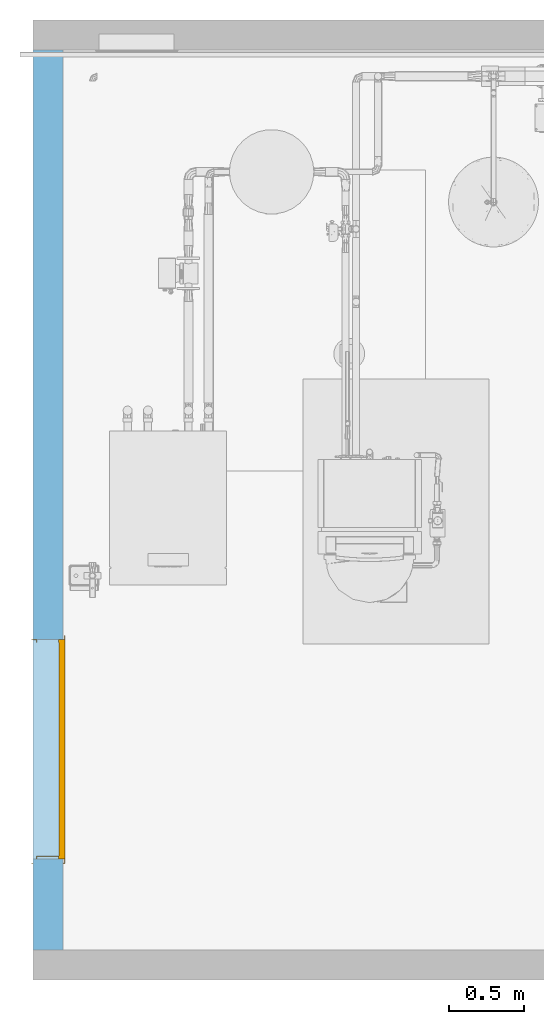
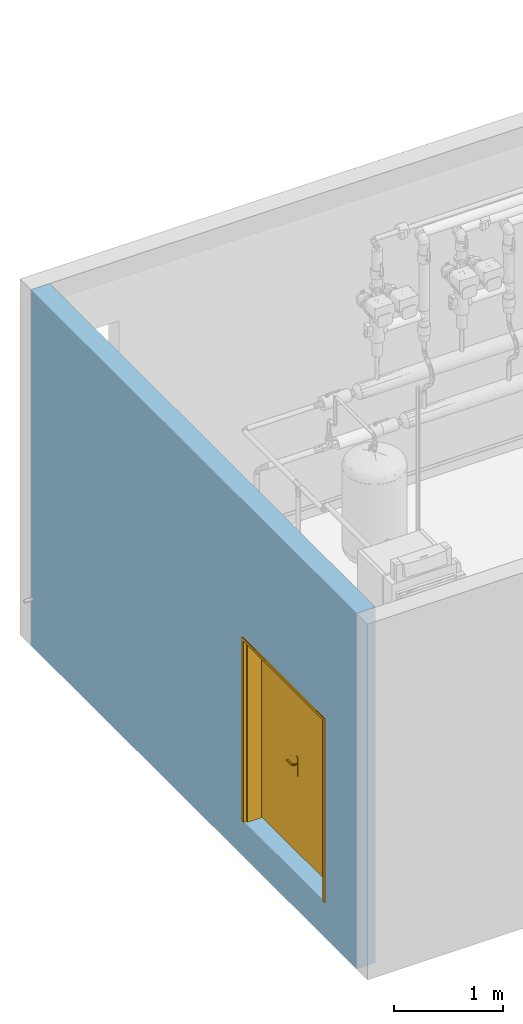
# One storey, part 2 of 94: 1 door, 1 opening, plus 1 element that does not belong to this part.
"""IFC2X3 building model written with IfcOpenShell, lengths in millimetres."""

import ifcopenshell
import ifcopenshell.guid

model = None  # the IFC model being written
_history = None  # IfcOwnerHistory: only IFC2X3 demands one
_inside = {}  # id of a spatial element -> (the spatial element, [elements in it])
_under = {}  # id of a project, library or spatial element -> (it, [spatial elements below it])
_declared = {}  # id of a project -> (the project, [libraries it declares])
_typed = {}  # id of a type object -> (the type object, [elements of that type])
_made_of = {}  # id of a material, layer set ... -> (it, [elements and type objects made of it])


def new_model(schema):
    """Start an empty IFC model of exactly this schema.

    Asked for "IFC4X3", IfcOpenShell would pick the latest addendum, in which some entities
    have other attributes; the version numbers below select the first issue.
    IFC2X3 requires an IfcOwnerHistory on every rooted entity: one is made here for all.
    """
    global model, _history
    if schema == "IFC4X3":
        model = ifcopenshell.file(schema_version=(4, 3, 0, 0))
    else:
        model = ifcopenshell.file(schema=schema)
    _inside.clear()
    _under.clear()
    _declared.clear()
    _typed.clear()
    _made_of.clear()
    _history = None
    if model.schema == "IFC2X3":
        org = make("IfcOrganization", Name="unknown")
        user = make(
            "IfcPersonAndOrganization",
            ThePerson=make("IfcPerson", FamilyName="unknown"),
            TheOrganization=org,
        )
        app = make(
            "IfcApplication",
            ApplicationDeveloper=org,
            Version="unknown",
            ApplicationFullName="unknown",
            ApplicationIdentifier="unknown",
        )
        _history = make(
            "IfcOwnerHistory",
            OwningUser=user,
            OwningApplication=app,
            ChangeAction="ADDED",
            CreationDate=0,
        )
    return model


def make(cls, **values):
    """One entity of the class cls with the attributes given. An attribute that is None is left unset."""
    return model.create_entity(
        cls, **{name: value for name, value in values.items() if value is not None}
    )


def entity(cls, *values):
    """Any entity or typed value of the class cls, its attributes in the order of the schema. None: left unset."""
    e = model.create_entity(cls)
    for i, value in enumerate(values):
        if value is not None:
            e[i] = value
    return e


def rooted(cls, **values):
    """An entity with a GlobalId (a new one), such as an element, a storey or a relation."""
    return make(cls, GlobalId=ifcopenshell.guid.new(), OwnerHistory=_history, **values)


def si_unit(unit_type, name, prefix=None):
    """IfcSIUnit, for example si_unit("LENGTHUNIT", "METRE", prefix="MILLI")."""
    return make("IfcSIUnit", UnitType=unit_type, Prefix=prefix, Name=name)


def converted_unit(unit_type, name, factor, base, dimensions=None, offset=None):
    """IfcConversionBasedUnit, such as the inch: factor (a typed value) times the base unit."""
    return make(
        "IfcConversionBasedUnit"
        if offset is None
        else "IfcConversionBasedUnitWithOffset",
        ConversionOffset=offset,
        Dimensions=None
        if dimensions is None
        else entity("IfcDimensionalExponents", *dimensions),
        UnitType=unit_type,
        Name=name,
        ConversionFactor=make(
            "IfcMeasureWithUnit", ValueComponent=factor, UnitComponent=base
        ),
    )


def derived_unit(unit_type, elements):
    """IfcDerivedUnit: a product of units, each with its exponent."""
    return make(
        "IfcDerivedUnit",
        Elements=[
            make("IfcDerivedUnitElement", Unit=unit, Exponent=power)
            for unit, power in elements
        ],
        UnitType=unit_type,
    )


def assignment(units):
    """IfcUnitAssignment: the units of a project."""
    return None if units is None else make("IfcUnitAssignment", Units=units)


def point(xyz):
    """IfcCartesianPoint."""
    return None if xyz is None else make("IfcCartesianPoint", Coordinates=xyz)


def direction(xyz):
    """IfcDirection."""
    return None if xyz is None else make("IfcDirection", DirectionRatios=xyz)


def frame(location, z_axis=None, x_axis=None):
    """IfcAxis2Placement3D, a coordinate frame: its origin and axes. An axis left out is left unset."""
    return make(
        "IfcAxis2Placement3D",
        Location=point(location),
        Axis=direction(z_axis),
        RefDirection=direction(x_axis),
    )


def frame_2d(location, x_axis=None):
    """IfcAxis2Placement2D, a coordinate frame in the plane: its origin and x axis."""
    return make(
        "IfcAxis2Placement2D", Location=point(location), RefDirection=direction(x_axis)
    )


def origin():
    """The frame at (0, 0, 0) with its axes left unset."""
    return frame((0.0, 0.0, 0.0))


def place(relative_to, where):
    """IfcLocalPlacement: puts the frame where relative to a parent placement (None: the world)."""
    return make(
        "IfcLocalPlacement", PlacementRelTo=relative_to, RelativePlacement=where
    )


def context(
    kind, dimensions, precision=None, world=None, true_north=None, identifier=None
):
    """IfcGeometricRepresentationContext, for example the 3D "Model" context."""
    return make(
        "IfcGeometricRepresentationContext",
        ContextIdentifier=identifier,
        ContextType=kind,
        CoordinateSpaceDimension=dimensions,
        Precision=precision,
        WorldCoordinateSystem=world,
        TrueNorth=true_north,
    )


def subcontext(parent, identifier, kind, view, scale=None):
    """IfcGeometricRepresentationSubContext, for example "Body" below "Model"."""
    return make(
        "IfcGeometricRepresentationSubContext",
        ContextIdentifier=identifier,
        ContextType=kind,
        ParentContext=parent,
        TargetScale=scale,
        TargetView=view,
    )


def project(units=None, contexts=None):
    """IfcProject with its units and contexts."""
    return rooted(
        "IfcProject",
        Name="project",
        RepresentationContexts=contexts,
        UnitsInContext=assignment(units),
    )


def spatial(cls, under=None, at=None, **own):
    """A site, building, storey or space (cls), placed at a placement, below another one or the project."""
    s = rooted(cls, ObjectPlacement=at, **own)
    if under is not None:
        _under.setdefault(under.id(), (under, []))[1].append(s)
    return s


def profile(cls, at=None, kind="AREA", **sizes):
    """A parametric profile (cls). Its sizes go by their IFC names, for example OverallWidth=200.0."""
    return make(cls, ProfileType=kind, Position=at, **sizes)


def rectangle(**sizes):
    """IfcRectangleProfileDef."""
    return profile("IfcRectangleProfileDef", **sizes)


def extrude(swept, where, along, depth):
    """IfcExtrudedAreaSolid: the profile swept, set in the frame where, extruded along a direction by depth."""
    return make(
        "IfcExtrudedAreaSolid",
        SweptArea=swept,
        Position=where,
        ExtrudedDirection=direction(along),
        Depth=depth,
    )


def faces_of(points, faces, orient=None, outer=None):
    """IfcFace entities. A face is a list of loops; a loop is a list of indices into points, from 0.

    orient and outer hold one flag for each loop. By default every Orientation is true, the
    first loop of a face is its IfcFaceOuterBound and the others are IfcFaceBound.
    """
    made = []
    for i, loops in enumerate(faces):
        bounds = []
        for j, loop in enumerate(loops):
            is_outer = j == 0 if outer is None else outer[i][j]
            bounds.append(
                make(
                    "IfcFaceOuterBound" if is_outer else "IfcFaceBound",
                    Bound=make("IfcPolyLoop", Polygon=[points[k] for k in loop]),
                    Orientation=True if orient is None else orient[i][j],
                )
            )
        made.append(make("IfcFace", Bounds=bounds))
    return made


def faceted_brep(points, faces, orient=None, outer=None, voids=None):
    """IfcFacetedBrep: a solid bounded by flat faces; with voids (closed shells), ...WithVoids."""
    shared = [point(p) for p in points]
    hull = make("IfcClosedShell", CfsFaces=faces_of(shared, faces, orient, outer))
    if voids is None:
        return make("IfcFacetedBrep", Outer=hull)
    return make(
        "IfcFacetedBrepWithVoids",
        Outer=hull,
        Voids=[
            make(cls, CfsFaces=faces_of(shared, fs, o, b)) for cls, fs, o, b in voids
        ],
    )


def shape(context_of_items, identifier, shape_type, items):
    """IfcShapeRepresentation: the items that make up one representation, for example the "Body"."""
    return make(
        "IfcShapeRepresentation",
        ContextOfItems=context_of_items,
        RepresentationIdentifier=identifier,
        RepresentationType=shape_type,
        Items=items,
    )


def source(mapping_origin, context_of_items, identifier, shape_type, items):
    """IfcRepresentationMap: a shape defined once, which mapped items show again and again."""
    return make(
        "IfcRepresentationMap",
        MappingOrigin=mapping_origin,
        MappedRepresentation=shape(context_of_items, identifier, shape_type, items),
    )


def transform(
    local_origin,
    x_axis=None,
    y_axis=None,
    z_axis=None,
    scale=None,
    scale2=None,
    scale3=None,
    uniform=True,
):
    """IfcCartesianTransformationOperator3D, or its non-uniform kind. x_axis, y_axis, z_axis: its Axis1, 2, 3."""
    if uniform:
        return make(
            "IfcCartesianTransformationOperator3D",
            Axis1=direction(x_axis),
            Axis2=direction(y_axis),
            LocalOrigin=point(local_origin),
            Scale=scale,
            Axis3=direction(z_axis),
        )
    return make(
        "IfcCartesianTransformationOperator3DnonUniform",
        Axis1=direction(x_axis),
        Axis2=direction(y_axis),
        LocalOrigin=point(local_origin),
        Scale=scale,
        Axis3=direction(z_axis),
        Scale2=scale2,
        Scale3=scale3,
    )


def mapped(mapping_source, mapping_target):
    """IfcMappedItem: shows the shape of a source again, moved by a transform."""
    return make(
        "IfcMappedItem", MappingSource=mapping_source, MappingTarget=mapping_target
    )


def material(Name=None, Category=None):
    """IfcMaterial."""
    return make("IfcMaterial", Name=Name, Category=Category)


def material_list(materials):
    """IfcMaterialList."""
    return make("IfcMaterialList", Materials=materials)


def layer(
    of_material, thickness, ventilated=None, Name=None, Category=None, Priority=None
):
    """IfcMaterialLayer: one layer of a wall or slab, of a material (None: an air gap)."""
    return make(
        "IfcMaterialLayer",
        Material=of_material,
        LayerThickness=thickness,
        IsVentilated=ventilated,
        Name=Name,
        Category=Category,
        Priority=Priority,
    )


def layer_set(layers, Name=None):
    """IfcMaterialLayerSet."""
    return make("IfcMaterialLayerSet", MaterialLayers=layers, LayerSetName=Name)


def layer_usage(for_layer_set, set_direction, sense, offset, extent=None):
    """IfcMaterialLayerSetUsage: how a layer set lies in its element."""
    return make(
        "IfcMaterialLayerSetUsage",
        ForLayerSet=for_layer_set,
        LayerSetDirection=set_direction,
        DirectionSense=sense,
        OffsetFromReferenceLine=offset,
        ReferenceExtent=extent,
    )


def made_of(thing, what):
    """Note that an element or type object is made of a material, layer set ...; save() writes the relation."""
    if what is not None:
        _made_of.setdefault(what.id(), (what, []))[1].append(thing)
    return thing


def type_object(cls, material=None, **own):
    """A type object (cls), such as IfcWallType, which elements share."""
    return made_of(rooted(cls, **own), material)


def type_shapes(of_type, sources):
    """Give a type object the sources (RepresentationMaps) that its elements show as mapped items."""
    of_type.RepresentationMaps = sources


def element(
    cls,
    number,
    at=None,
    inside=None,
    cuts=None,
    type_object=None,
    material=None,
    context=None,
    identifier="Body",
    shape_type=None,
    held_by="IfcProductDefinitionShape",
    body=None,
    shapes=None,
    **own,
):
    """One element of the class cls, such as IfcWall. Its Tag is "e" and its number.

    at: its placement. inside: the storey or other place that contains it. cuts: it is an
    opening in that element (IfcRelVoidsElement). A single representation is given by context,
    identifier, shape_type and body (its items); several are given by shapes. held_by: the class
    of the entity that holds the representations. save() writes the other relations.
    """
    e = rooted(cls, Tag="e%d" % number, ObjectPlacement=at, **own)
    if body is not None:
        shapes = [shape(context, identifier, shape_type, body)]
    if shapes is not None:
        e.Representation = make(held_by, Representations=shapes)
    if inside is not None:
        _inside.setdefault(inside.id(), (inside, []))[1].append(e)
    if cuts is not None:
        rooted(
            "IfcRelVoidsElement", RelatingBuildingElement=cuts, RelatedOpeningElement=e
        )
    if type_object is not None:
        _typed.setdefault(type_object.id(), (type_object, []))[1].append(e)
    return made_of(e, material)


def fill(opening, filler):
    """IfcRelFillsElement: the door or window that sits in an opening."""
    return rooted(
        "IfcRelFillsElement",
        RelatingOpeningElement=opening,
        RelatedBuildingElement=filler,
    )


def aggregate(whole, parts):
    """IfcRelAggregates: a whole, such as a stair, and the parts it consists of."""
    return rooted("IfcRelAggregates", RelatingObject=whole, RelatedObjects=parts)


def save(model, path):
    """Write the relations noted so far, then the file.

    IfcRelAggregates (storeys below a building ...), IfcRelContainedInSpatialStructure (elements
    in a storey), IfcRelDefinesByType, IfcRelAssociatesMaterial and IfcRelDeclares: one each for
    every whole, place, type object, material and project.
    """
    for whole, parts in _under.values():
        aggregate(whole, parts)
    for where, things in _inside.values():
        rooted(
            "IfcRelContainedInSpatialStructure",
            RelatedElements=things,
            RelatingStructure=where,
        )
    for kind, things in _typed.values():
        rooted("IfcRelDefinesByType", RelatedObjects=things, RelatingType=kind)
    for what, things in _made_of.values():
        rooted("IfcRelAssociatesMaterial", RelatedObjects=things, RelatingMaterial=what)
    for by, libraries in _declared.values():
        rooted("IfcRelDeclares", RelatingContext=by, RelatedDefinitions=libraries)
    model.write(path)


model = new_model("IFC2X3")

# Units and contexts
model_context = context("Model", 3, precision=0.01, world=origin(), true_north=direction((6.123031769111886e-17, 1.0)))
body_context = subcontext(model_context, "Body", "Model", "MODEL_VIEW")
ifc_project = project(units=[si_unit("LENGTHUNIT", "METRE", prefix="MILLI"), si_unit("AREAUNIT", "SQUARE_METRE"), si_unit("VOLUMEUNIT", "CUBIC_METRE"), converted_unit("PLANEANGLEUNIT", "DEGREE", entity("IfcRatioMeasure", 0.017453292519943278), si_unit("PLANEANGLEUNIT", "RADIAN"), dimensions=[0, 0, 0, 0, 0, 0, 0]), si_unit("MASSUNIT", "GRAM", prefix="KILO"), derived_unit("MASSDENSITYUNIT", [(si_unit("MASSUNIT", "GRAM", prefix="KILO"), 1), (si_unit("LENGTHUNIT", "METRE"), -3)]), derived_unit("IONCONCENTRATIONUNIT", [(si_unit("MASSUNIT", "GRAM", prefix="KILO"), 1), (si_unit("LENGTHUNIT", "METRE"), -3)]), derived_unit("MOMENTOFINERTIAUNIT", [(si_unit("LENGTHUNIT", "METRE"), 4)]), si_unit("TIMEUNIT", "SECOND"), si_unit("FREQUENCYUNIT", "HERTZ"), si_unit("THERMODYNAMICTEMPERATUREUNIT", "DEGREE_CELSIUS"), derived_unit("THERMALTRANSMITTANCEUNIT", [(si_unit("MASSUNIT", "GRAM", prefix="KILO"), 1), (si_unit("THERMODYNAMICTEMPERATUREUNIT", "KELVIN"), -1), (si_unit("TIMEUNIT", "SECOND"), -3)]), derived_unit("THERMALCONDUCTANCEUNIT", [(si_unit("MASSUNIT", "GRAM", prefix="KILO"), 1), (si_unit("THERMODYNAMICTEMPERATUREUNIT", "KELVIN"), -1), (si_unit("TIMEUNIT", "SECOND"), -3), (si_unit("LENGTHUNIT", "METRE"), 1)]), derived_unit("VOLUMETRICFLOWRATEUNIT", [(si_unit("LENGTHUNIT", "METRE"), 3), (si_unit("TIMEUNIT", "SECOND"), -1)]), derived_unit("MASSFLOWRATEUNIT", [(si_unit("MASSUNIT", "GRAM", prefix="KILO"), 1), (si_unit("TIMEUNIT", "SECOND"), -1)]), derived_unit("ROTATIONALFREQUENCYUNIT", [(si_unit("TIMEUNIT", "SECOND"), -1)]), si_unit("ELECTRICCURRENTUNIT", "AMPERE"), si_unit("ELECTRICVOLTAGEUNIT", "VOLT"), si_unit("POWERUNIT", "WATT"), si_unit("FORCEUNIT", "NEWTON", prefix="KILO"), si_unit("ILLUMINANCEUNIT", "LUX"), si_unit("LUMINOUSFLUXUNIT", "LUMEN"), si_unit("LUMINOUSINTENSITYUNIT", "CANDELA"), derived_unit("USERDEFINED", [(si_unit("MASSUNIT", "GRAM", prefix="KILO"), -1), (si_unit("LENGTHUNIT", "METRE"), -2), (si_unit("TIMEUNIT", "SECOND"), 3), (si_unit("LUMINOUSFLUXUNIT", "LUMEN"), 1)]), derived_unit("USERDEFINED", [(si_unit("MASSUNIT", "GRAM", prefix="KILO"), 1), (si_unit("TIMEUNIT", "SECOND"), -3), (si_unit("LENGTHUNIT", "METRE"), 3), (si_unit("ELECTRICCURRENTUNIT", "AMPERE"), -2)]), derived_unit("SOUNDPOWERUNIT", [(si_unit("MASSUNIT", "GRAM", prefix="KILO"), 1), (si_unit("TIMEUNIT", "SECOND"), -3), (si_unit("LENGTHUNIT", "METRE"), 2)]), derived_unit("SOUNDPRESSUREUNIT", [(si_unit("MASSUNIT", "GRAM", prefix="KILO"), 1), (si_unit("LENGTHUNIT", "METRE"), -1), (si_unit("TIMEUNIT", "SECOND"), -2)]), derived_unit("LINEARVELOCITYUNIT", [(si_unit("LENGTHUNIT", "METRE"), 1), (si_unit("TIMEUNIT", "SECOND"), -1)]), si_unit("PRESSUREUNIT", "PASCAL"), derived_unit("USERDEFINED", [(si_unit("MASSUNIT", "GRAM", prefix="KILO"), 1), (si_unit("LENGTHUNIT", "METRE"), -2), (si_unit("TIMEUNIT", "SECOND"), -2)]), derived_unit("LINEARFORCEUNIT", [(si_unit("MASSUNIT", "GRAM", prefix="KILO"), 1), (si_unit("TIMEUNIT", "SECOND"), -2)]), derived_unit("PLANARFORCEUNIT", [(si_unit("MASSUNIT", "GRAM", prefix="KILO"), 1), (si_unit("LENGTHUNIT", "METRE"), -1), (si_unit("TIMEUNIT", "SECOND"), -2)]), derived_unit("SPECIFICHEATCAPACITYUNIT", [(si_unit("THERMODYNAMICTEMPERATUREUNIT", "KELVIN"), -1), (si_unit("LENGTHUNIT", "METRE"), 2), (si_unit("TIMEUNIT", "SECOND"), -2)]), derived_unit("HEATINGVALUEUNIT", [(si_unit("LENGTHUNIT", "METRE"), 2), (si_unit("TIMEUNIT", "SECOND"), -2)]), derived_unit("VAPORPERMEABILITYUNIT", [(si_unit("LENGTHUNIT", "METRE"), -1), (si_unit("TIMEUNIT", "SECOND"), 1)]), derived_unit("DYNAMICVISCOSITYUNIT", [(si_unit("MASSUNIT", "GRAM", prefix="KILO"), 1), (si_unit("TIMEUNIT", "SECOND"), -1), (si_unit("LENGTHUNIT", "METRE"), -1)]), derived_unit("THERMALEXPANSIONCOEFFICIENTUNIT", [(si_unit("THERMODYNAMICTEMPERATUREUNIT", "KELVIN"), -1)]), derived_unit("MODULUSOFELASTICITYUNIT", [(si_unit("MASSUNIT", "GRAM", prefix="KILO"), 1), (si_unit("LENGTHUNIT", "METRE"), -1), (si_unit("TIMEUNIT", "SECOND"), -2)]), derived_unit("ISOTHERMALMOISTURECAPACITYUNIT", [(si_unit("LENGTHUNIT", "METRE"), 3), (si_unit("MASSUNIT", "GRAM", prefix="KILO"), -1)]), derived_unit("MOISTUREDIFFUSIVITYUNIT", [(si_unit("TIMEUNIT", "SECOND"), -1), (si_unit("LENGTHUNIT", "METRE"), 2)])], contexts=[model_context])

# Site, building, storey
site_placement = place(None, origin())
site = spatial("IfcSite", under=ifc_project, at=site_placement, Name="Default", CompositionType="ELEMENT")
building_placement = place(site_placement, origin())
building = spatial("IfcBuilding", under=site, at=building_placement, CompositionType="ELEMENT")
storey_placement = place(building_placement, origin())
storey = spatial("IfcBuildingStorey", under=building, at=storey_placement, Name="Niveau 0", CompositionType="ELEMENT", Elevation=0.0)

# Wall, opening, door
ifc_material_1 = material(Name="Mur par défaut")
ifc_layer = layer(ifc_material_1, 200.0)
ifc_layer_set = layer_set([ifc_layer], Name="Mur de base:Générique - 200 mm")
ifc_layer_usage = layer_usage(ifc_layer_set, "AXIS2", "NEGATIVE", 100.0)
wall_type = type_object("IfcWallType", Name="Mur de base:Générique - 200 mm", PredefinedType="STANDARD", material=ifc_layer_set)
wall_placement = place(storey_placement, frame((-13852.538466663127, 4097.470546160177, -400.0), z_axis=(0.0, 0.0, 1.0), x_axis=(0.0, 1.0, 0.0)))
wall = element("IfcWallStandardCase", 1, at=wall_placement, inside=storey, type_object=wall_type, material=ifc_layer_usage, Name="Mur de base:Générique - 200 mm", ObjectType="Mur de base:Générique - 200 mm", context=body_context, shape_type="SweptSolid", body=[
    extrude(rectangle(XDim=5999.999999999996, YDim=200.0, at=frame_2d((2999.9999999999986, -1.0871303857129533e-12), x_axis=(-1.0, 0.0))), origin(), (0.0, 0.0, 1.0), 4000.0000000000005),
])
opening_placement = place(wall_placement, frame((2068.9655018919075, 100.0, 400.0)))
opening = element("IfcOpeningElement", 2, at=opening_placement, cuts=wall, Name="HM-Double:1460 x 2040 mm:1", ObjectType="Opening", context=body_context, shape_type="SweptSolid", body=[
    extrude(rectangle(XDim=2041.5000000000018, YDim=1463.0000000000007, at=frame_2d((1020.7500000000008, 731.5000000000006), x_axis=(1.0, 0.0))), frame((0.0, 0.0, 0.0), z_axis=(0.0, -1.0, 0.0), x_axis=(0.0, 0.0, 1.0)), (0.0, 0.0, 1.0), 200.0),
])
ifc_material_2 = material(Name="RAL1013-Blanc perle")
ifc_material_3 = material(Name="RAL1002-Jaune sable")
ifc_material_list = material_list([ifc_material_2, ifc_material_3])
door_style = type_object("IfcDoorStyle", Name="HM-Double:1460 x 2040 mm", ConstructionType="NOTDEFINED", OperationType="DOUBLE_DOOR_SINGLE_SWING", ParameterTakesPrecedence=False, Sizeable=False, material=ifc_material_list)
shared_shape = source(origin(), body_context, "Body", "Brep", [
    faceted_brep([(731.5000000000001, 28.0, 2040.0), (731.5000000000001, 28.0, 10.0), (1.4999999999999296, 28.0, 10.0), (1.4999999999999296, 28.0, 2040.0), (1.499999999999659, -12.0, 10.0), (1.499999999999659, -12.0, 2040.0), (731.4999999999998, -12.0, 10.0), (731.4999999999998, -12.0, 2040.0)], [[[0, 1, 2, 3]], [[2, 4, 5, 3]], [[1, 6, 4, 2]], [[0, 7, 6, 1]], [[7, 5, 4, 6]], [[3, 5, 7, 0]]]),
    faceted_brep([(789.4747013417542, 33.0, 992.2195591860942), (793.5252986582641, 33.0, 992.2195591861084), (797.5000000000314, 33.0, 993.0), (797.5000000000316, 33.0, 1007.0), (793.5252986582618, 33.0, 1007.7804408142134), (789.4747013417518, 33.0, 1007.7804408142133), (785.4999999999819, 33.0, 1007.0), (785.4999999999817, 33.0, 993.0), (797.5000000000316, 55.485204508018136, 993.0), (797.5000000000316, 55.48520450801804, 1007.0), (793.5252986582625, 57.1315797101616, 1007.7804408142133), (807.3389061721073, 70.94518722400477, 1007.7804408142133), (805.6610938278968, 74.9957845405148, 1007.7804408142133), (789.4747013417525, 58.80939205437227, 1007.7804408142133), (785.4999999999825, 60.45576725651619, 1007.0), (785.4999999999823, 60.455767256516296, 993.0), (789.4747013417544, 58.80939205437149, 992.2195591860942), (805.6610938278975, 74.99578454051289, 992.2195591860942), (807.3389061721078, 70.94518722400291, 992.2195591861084), (793.5252986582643, 57.13157971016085, 992.2195591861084), (808.9852813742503, 66.97048588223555, 993.0), (808.9852813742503, 66.97048588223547, 1007.0), (804.0147186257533, 78.97048588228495, 1007.0), (804.0147186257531, 78.97048588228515, 993.0), (891.545783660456, 66.97048588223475, 993.0), (891.545783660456, 70.94518722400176, 992.2195591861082), (891.5457836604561, 74.9957845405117, 992.219559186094), (891.5457836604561, 78.97048588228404, 993.0), (891.5457836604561, 78.9704858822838, 1007.0), (891.5457836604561, 74.99578454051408, 1007.780440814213), (891.5457836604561, 70.94518722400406, 1007.7804408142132), (891.545783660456, 66.9704858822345, 1007.0), (850.2655206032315, 66.97048588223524, 993.0), (850.2655325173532, 66.97048588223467, 1007.0), (849.4423448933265, 72.9704858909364, 1007.8786867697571), (843.9452057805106, 78.97048588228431, 1007.0), (843.9452043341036, 78.97048588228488, 993.0), (849.4423451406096, 72.9704858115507, 992.1213132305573)], [[[0, 1, 2, 3, 4, 5, 6, 7]], [[3, 2, 8, 9]], [[9, 10, 4, 3]], [[10, 11, 12, 13, 5, 4]], [[13, 14, 6, 5]], [[7, 6, 14, 15]], [[15, 16, 0, 7]], [[16, 17, 18, 19, 1, 0]], [[19, 8, 2, 1]], [[9, 8, 20, 21]], [[21, 11, 10, 9]], [[12, 22, 14, 13]], [[15, 14, 22, 23]], [[23, 17, 16, 15]], [[18, 20, 8, 19]], [[24, 25, 26, 27, 28, 29, 30, 31]], [[21, 20, 32, 24, 31, 33]], [[33, 30, 34]], [[35, 34, 29]], [[21, 33, 11]], [[33, 31, 30]], [[28, 35, 29]], [[22, 12, 35]], [[35, 12, 34]], [[12, 11, 34]], [[11, 33, 34]], [[29, 34, 30]], [[22, 35, 28, 27, 36, 23]], [[36, 26, 37]], [[27, 26, 36]], [[17, 23, 36]], [[37, 32, 18]], [[20, 18, 32]], [[32, 25, 24]], [[26, 25, 37]], [[25, 32, 37]], [[17, 36, 37]], [[17, 37, 18]]]),
    faceted_brep([(789.4747013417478, -17.0, 1007.7804408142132), (793.525298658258, -17.0, 1007.7804408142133), (797.5000000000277, -17.0, 1007.0), (797.5000000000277, -17.0, 993.0), (793.5252986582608, -17.0, 992.2195591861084), (789.4747013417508, -17.0, 992.219559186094), (785.4999999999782, -17.0, 993.0), (785.4999999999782, -17.0, 1007.0), (785.4999999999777, -44.65095070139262, 1007.0), (789.4747013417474, -43.00457549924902, 1007.7804408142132), (805.5235851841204, -59.05345934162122, 1007.7804408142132), (807.2013975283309, -55.00286202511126, 1007.7804408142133), (793.5252986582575, -41.32676315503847, 1007.7804408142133), (797.5000000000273, -39.68038795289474, 1007.0), (797.5000000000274, -39.680387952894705, 993.0), (793.5252986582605, -41.32676315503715, 992.2195591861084), (807.2013975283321, -55.002862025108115, 992.2195591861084), (805.5235851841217, -59.05345934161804, 992.219559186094), (789.4747013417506, -43.0045754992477, 992.219559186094), (785.499999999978, -44.65095070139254, 993.0), (803.877209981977, -63.0281606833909, 1007.0), (808.8477727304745, -51.02816068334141, 1007.0), (808.8477727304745, -51.02816068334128, 993.0), (803.877209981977, -63.028160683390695, 993.0), (891.518640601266, -63.02816068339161, 993.0), (891.5186406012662, -59.05345934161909, 992.2195591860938), (891.5186406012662, -55.00286202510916, 992.2195591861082), (891.5186406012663, -51.02816068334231, 993.0), (891.5186406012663, -51.02816068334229, 1007.0), (891.5186406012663, -55.002862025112, 1007.780440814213), (891.5186406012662, -59.05345934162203, 1007.7804408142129), (891.5186406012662, -63.02816068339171, 1007.0), (843.8076972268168, -63.02816068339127, 1007.0), (849.3600190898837, -57.028160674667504, 1007.878686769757), (850.1832066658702, -51.02816068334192, 1007.0), (850.1832046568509, -51.02816068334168, 993.0), (849.3600188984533, -57.02816075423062, 992.1213132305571), (843.8077247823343, -63.0281606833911, 993.0)], [[[0, 1, 2, 3, 4, 5, 6, 7]], [[8, 9, 0, 7]], [[9, 10, 11, 12, 1, 0]], [[12, 13, 2, 1]], [[3, 2, 13, 14]], [[14, 15, 4, 3]], [[15, 16, 17, 18, 5, 4]], [[18, 19, 6, 5]], [[7, 6, 19, 8]], [[20, 10, 9, 8]], [[11, 21, 13, 12]], [[14, 13, 21, 22]], [[22, 16, 15, 14]], [[17, 23, 19, 18]], [[8, 19, 23, 20]], [[24, 25, 26, 27, 28, 29, 30, 31]], [[32, 30, 33]], [[31, 30, 32]], [[10, 20, 32]], [[33, 34, 11]], [[21, 11, 34]], [[34, 29, 28]], [[30, 29, 33]], [[29, 34, 33]], [[10, 32, 33]], [[10, 33, 11]], [[22, 21, 34, 28, 27, 35]], [[35, 26, 36]], [[37, 36, 25]], [[22, 35, 16]], [[35, 27, 26]], [[24, 37, 25]], [[23, 17, 37]], [[37, 17, 36]], [[17, 16, 36]], [[16, 35, 36]], [[25, 36, 26]], [[23, 37, 24, 31, 32, 20]]]),
    faceted_brep([(801.8527618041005, 28.0, 866.0039830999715), (811.4999999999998, 28.0, 870.0), (811.4999999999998, 28.0, 1080.0), (801.8527618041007, 28.0, 1083.9960169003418), (791.5, 28.0, 1085.3589838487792), (781.1472381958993, 28.0, 1083.9960169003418), (771.5000000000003, 28.0, 1080.0), (771.5000000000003, 28.0, 870.0), (781.1472381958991, 28.0, 866.0039830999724), (791.4999999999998, 28.0, 864.6410161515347), (801.8527618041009, 33.0, 1083.9960169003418), (811.4999999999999, 33.0, 1080.0), (811.4999999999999, 33.0, 870.0), (801.8527618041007, 33.0, 866.0039830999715), (791.5, 33.0, 864.6410161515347), (781.1472381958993, 33.0, 866.0039830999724), (771.5000000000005, 33.0, 870.0), (771.5000000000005, 33.0, 1080.0), (781.1472381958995, 33.0, 1083.9960169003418), (791.5000000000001, 33.0, 1085.3589838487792)], [[[0, 1, 2, 3, 4, 5, 6, 7, 8, 9]], [[10, 11, 12, 13, 14, 15, 16, 17, 18, 19]], [[11, 10, 3, 2]], [[3, 10, 19, 4]], [[19, 18, 5, 4]], [[18, 17, 6, 5]], [[7, 6, 17, 16]], [[16, 15, 8, 7]], [[8, 15, 14, 9]], [[14, 13, 0, 9]], [[13, 12, 1, 0]], [[2, 1, 12, 11]]]),
    faceted_brep([(801.8527618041, -17.0, 866.0039830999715), (811.4999999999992, -17.0, 870.0), (811.4999999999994, -17.0, 1080.0), (801.8527618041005, -17.0, 1083.9960169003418), (791.4999999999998, -17.0, 1085.3589838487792), (781.1472381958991, -17.0, 1083.9960169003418), (771.5, -17.0, 1080.0), (771.4999999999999, -17.0, 870.0), (781.1472381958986, -17.0, 866.0039830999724), (791.4999999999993, -17.0, 864.6410161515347), (801.8527618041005, -12.0, 1083.9960169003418), (811.4999999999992, -12.0, 1080.0), (811.4999999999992, -12.0, 870.0), (801.8527618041, -12.0, 866.0039830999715), (791.4999999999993, -12.0, 864.6410161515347), (781.1472381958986, -12.0, 866.0039830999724), (771.4999999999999, -12.0, 870.0), (771.5, -12.0, 1080.0), (781.1472381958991, -12.0, 1083.9960169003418), (791.4999999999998, -12.0, 1085.3589838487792)], [[[0, 1, 2, 3, 4, 5, 6, 7, 8, 9]], [[10, 11, 12, 13, 14, 15, 16, 17, 18, 19]], [[16, 15, 8, 7]], [[8, 15, 14, 9]], [[14, 13, 0, 9]], [[13, 12, 1, 0]], [[2, 1, 12, 11]], [[11, 10, 3, 2]], [[3, 10, 19, 4]], [[19, 18, 5, 4]], [[18, 17, 6, 5]], [[7, 6, 17, 16]]]),
    faceted_brep([(731.4999999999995, 28.0, 2040.0), (1461.4999999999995, 28.0, 2040.0), (1461.4999999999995, 28.0, 10.0), (731.4999999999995, 28.0, 10.0), (1461.4999999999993, -12.0, 2040.0), (1461.4999999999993, -12.0, 10.0), (731.4999999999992, -12.0, 10.0), (731.4999999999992, -12.0, 2040.0)], [[[0, 1, 2, 3]], [[2, 1, 4, 5]], [[3, 2, 5, 6]], [[0, 3, 6, 7]], [[7, 6, 5, 4]], [[1, 0, 7, 4]]]),
    faceted_brep([(1491.500000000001, 200.0, 0.0), (1490.0, 200.0, 0.0), (1490.0, 210.50000000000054, 0.0), (1463.0, 210.50000000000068, 0.0), (1463.0, 175.50000000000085, 0.0), (1445.0, 175.5000000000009, 0.0), (1445.0, 29.500000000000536, 0.0), (1463.0, 29.50000000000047, 0.0), (1463.0, -10.500000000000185, 0.0), (1490.0, -10.500000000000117, 0.0), (1490.0, 0.0, 0.0), (1491.500000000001, 0.0, 0.0), (1491.500000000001, -11.200000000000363, 0.0), (1490.7000000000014, -12.0, 0.0), (1462.3000000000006, -12.0, 0.0), (1461.5000000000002, -11.199999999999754, 0.0), (1461.5000000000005, 28.0, 0.0), (1444.3000000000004, 28.0, 0.0), (1443.5000000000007, 28.800000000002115, 0.0), (1443.5000000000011, 176.20000000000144, 0.0), (1444.3000000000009, 177.0, 0.0), (1461.5000000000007, 177.0, 0.0), (1461.500000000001, 211.20000000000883, 0.0), (1462.3000000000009, 212.0, 0.0), (1490.7000000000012, 212.0, 0.0), (1491.500000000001, 211.20000000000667, 0.0), (1491.500000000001, 200.0, 2070.0), (-28.500000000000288, 200.0, 2070.0), (-28.500000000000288, 200.0, 0.0), (-27.0, 200.0, 0.0), (-27.0, 200.0, 2068.5000000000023), (1490.0, 200.0, 2068.500000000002), (1490.0, 210.50000000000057, 2068.500000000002), (-27.0, 210.50000000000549, 2068.5000000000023), (-27.0, 210.5000000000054, 0.0), (0.0, 210.50000000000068, 0.0), (0.0, 210.50000000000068, 2041.5000000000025), (1463.0, 210.50000000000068, 2041.5000000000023), (1463.0, 175.50000000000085, 2041.500000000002), (0.0, 175.50000000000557, 2041.5000000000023), (0.0, 175.50000000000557, 0.0), (18.0, 175.5000000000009, 0.0), (18.0, 175.5000000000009, 2023.5000000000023), (1445.0, 175.5000000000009, 2023.5000000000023), (1445.0, 29.50000000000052, 2023.500000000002), (18.0, 29.50000000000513, 2023.5000000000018), (18.0, 29.500000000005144, 0.0), (0.0, 29.50000000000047, 0.0), (0.0, 29.500000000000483, 2041.500000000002), (1463.0, 29.500000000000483, 2041.5000000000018), (1463.0, -10.500000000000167, 2041.5000000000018), (0.0, -10.500000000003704, 2041.5000000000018), (0.0, -10.500000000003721, 0.0), (-27.0, -10.500000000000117, 0.0), (-27.0, -10.5000000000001, 2068.500000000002), (1490.0, -10.5000000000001, 2068.500000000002), (1490.0, 0.0, 2068.500000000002), (-27.0, 0.0, 2068.500000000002), (-27.0, 0.0, 0.0), (-28.500000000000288, 0.0, 0.0), (-28.500000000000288, 0.0, 2070.0), (1491.500000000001, 0.0, 2070.0), (1491.500000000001, -11.200000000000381, 2070.0), (1490.7000000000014, -12.0, 2069.2000000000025), (-27.700000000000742, -12.0, 2069.2000000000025), (-27.700000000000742, -12.0, 0.0), (0.7000000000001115, -12.0, 0.0), (0.7000000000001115, -12.0, 2040.8000000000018), (1462.3000000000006, -12.0, 2040.800000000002), (1461.5000000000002, -11.199999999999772, 2040.0), (1461.5000000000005, 28.0, 2040.0), (1.5000000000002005, 28.0, 2040.0), (1.5000000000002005, 28.0, 0.0), (18.700000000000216, 28.0, 0.0), (18.70000000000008, 28.0, 2022.8000000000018), (1444.3000000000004, 28.0, 2022.8000000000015), (1443.5000000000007, 28.800000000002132, 2022.0), (1443.5000000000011, 176.20000000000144, 2022.0), (1444.3000000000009, 177.0, 2022.800000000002), (18.70000000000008, 177.0, 2022.800000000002), (18.69999999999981, 177.0, 0.0), (1.4999999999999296, 177.0, 0.0), (1.4999999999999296, 177.0, 2040.0), (1461.5000000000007, 177.0, 2040.0), (1461.5000000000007, 211.20000000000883, 2040.0), (1462.3000000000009, 212.0, 2040.800000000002), (0.6999999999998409, 212.0, 2040.800000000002), (0.6999999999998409, 212.0, 0.0), (-27.700000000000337, 212.0, 0.0), (-27.7000000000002, 212.0, 2069.200000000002), (1490.7000000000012, 212.0, 2069.200000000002), (1491.500000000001, 211.20000000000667, 2070.0), (-28.500000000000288, 211.20000000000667, 2070.0), (-28.500000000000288, 211.20000000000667, 0.0), (1.4999999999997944, 211.20000000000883, 0.0), (19.499999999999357, 176.20000000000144, 0.0), (19.499999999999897, 28.80000000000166, 0.0), (1.5000000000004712, -11.199999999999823, 0.0), (-28.500000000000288, -11.200000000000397, 0.0), (-28.500000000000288, -11.200000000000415, 2070.0), (1.5000000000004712, -11.199999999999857, 2040.0), (19.499999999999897, 28.800000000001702, 2022.0), (19.499999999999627, 176.20000000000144, 2022.0), (1.499999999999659, 211.20000000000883, 2040.0)], [[[0, 1, 2, 3, 4, 5, 6, 7, 8, 9, 10, 11, 12, 13, 14, 15, 16, 17, 18, 19, 20, 21, 22, 23, 24, 25]], [[1, 0, 26, 27, 28, 29, 30, 31]], [[2, 1, 31, 32]], [[3, 2, 32, 33, 34, 35, 36, 37]], [[4, 3, 37, 38]], [[5, 4, 38, 39, 40, 41, 42, 43]], [[6, 5, 43, 44]], [[7, 6, 44, 45, 46, 47, 48, 49]], [[8, 7, 49, 50]], [[9, 8, 50, 51, 52, 53, 54, 55]], [[10, 9, 55, 56]], [[11, 10, 56, 57, 58, 59, 60, 61]], [[12, 11, 61, 62]], [[13, 12, 62, 63]], [[14, 13, 63, 64, 65, 66, 67, 68]], [[15, 14, 68, 69]], [[16, 15, 69, 70]], [[17, 16, 70, 71, 72, 73, 74, 75]], [[18, 17, 75, 76]], [[19, 18, 76, 77]], [[20, 19, 77, 78]], [[21, 20, 78, 79, 80, 81, 82, 83]], [[22, 21, 83, 84]], [[23, 22, 84, 85]], [[24, 23, 85, 86, 87, 88, 89, 90]], [[25, 24, 90, 91]], [[0, 25, 91, 26]], [[27, 92, 93, 28]], [[28, 93, 88, 87, 94, 81, 80, 95, 96, 73, 72, 97, 66, 65, 98, 59, 58, 53, 52, 47, 46, 41, 40, 35, 34, 29]], [[33, 30, 29, 34]], [[39, 36, 35, 40]], [[45, 42, 41, 46]], [[51, 48, 47, 52]], [[57, 54, 53, 58]], [[99, 60, 59, 98]], [[64, 99, 98, 65]], [[100, 67, 66, 97]], [[71, 100, 97, 72]], [[101, 74, 73, 96]], [[79, 102, 95, 80]], [[103, 82, 81, 94]], [[86, 103, 94, 87]], [[92, 89, 88, 93]], [[102, 101, 96, 95]], [[32, 31, 30, 33]], [[38, 37, 36, 39]], [[44, 43, 42, 45]], [[50, 49, 48, 51]], [[56, 55, 54, 57]], [[62, 61, 60, 99]], [[63, 62, 99, 64]], [[69, 68, 67, 100]], [[70, 69, 100, 71]], [[76, 75, 74, 101]], [[77, 76, 101, 102]], [[78, 77, 102, 79]], [[84, 83, 82, 103]], [[85, 84, 103, 86]], [[91, 90, 89, 92]], [[26, 91, 92, 27]]]),
])
type_shapes(door_style, [shared_shape])
door_placement = place(opening_placement, frame((-1463.0, -200.0, 0.0)))
door = element("IfcDoor", 3, at=door_placement, inside=storey, type_object=door_style, material=ifc_material_list, Name="HM-Double:1460 x 2040 mm", ObjectType="HM-Double:1460 x 2040 mm", OverallHeight=2041.5000000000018, OverallWidth=1463.000000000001, context=body_context, shape_type="MappedRepresentation", body=[
    mapped(shared_shape, transform((0.0, 0.0, 0.0), scale=1.0)),
])
fill(opening, door)

save(model, "model.ifc")
